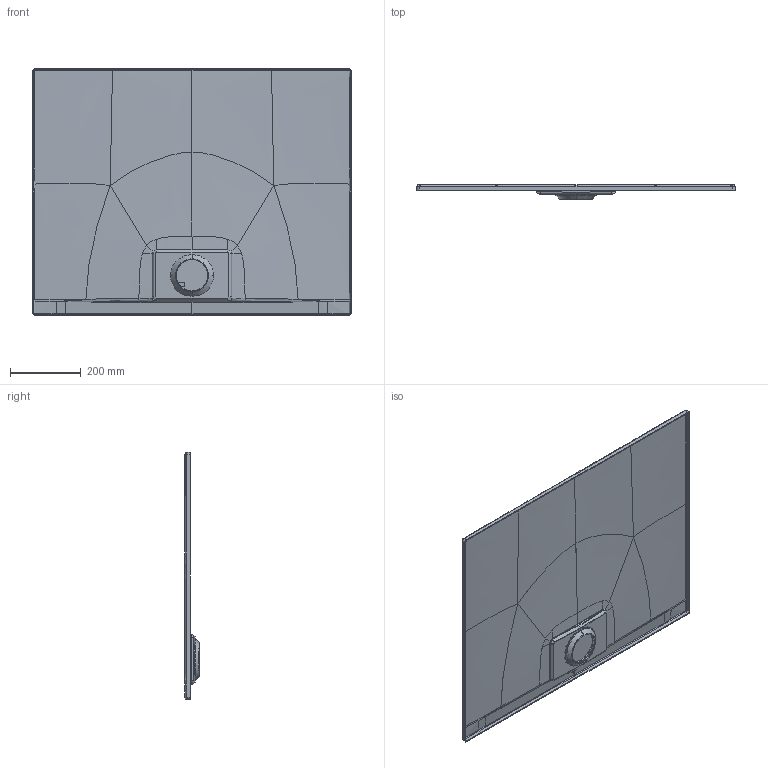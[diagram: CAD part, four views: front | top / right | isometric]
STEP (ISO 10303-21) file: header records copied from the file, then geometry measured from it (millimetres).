
FILE_DESCRIPTION((''),'2;1');
FILE_NAME('UDA9070ARA215_ARCHITECTURA_META_ASM','2022-07-12T15:51:07',('GrootJ'),('Villeroy & Boch Wellness bv'),'CREO PARAMETRIC BY PTC INC, 2020454','CREO PARAMETRIC BY PTC INC, 2020454','');
FILE_SCHEMA(('CONFIG_CONTROL_DESIGN'));
Products named in the file (6): G0500027_22; G0500024_69; G0500026_ASM_11_ASM; METALRIM_COVER_GEPLAATST120722_ASM; METALRIM-LOGO_12072022; UDA9070ARA215_ARCHITECTURA_META_ASM
Assembly tree (5 placements, depth 4):
  UDA9070ARA215_ARCHITECTURA_META_ASM
    METALRIM_COVER_GEPLAATST120722_ASM
      G0500026_ASM_11_ASM
        G0500027_22
        G0500024_69
    METALRIM-LOGO_12072022
Bounding box: 900 x 40 x 700 mm (x, y, z)
Volume: 119920.3 mm3; surface area: 1442062 mm2
Topology: 30 solids, 33 shells, 1183 faces, 3085 edges, 1924 vertices
Faces by surface type: plane 422, extrusion 239, bspline 173, cylinder 173, cone 114, sphere 36, torus 26
Entity records: 50251 total; most frequent: CARTESIAN_POINT 24109, ORIENTED_EDGE 6108, DIRECTION 4067, EDGE_CURVE 3059, VERTEX_POINT 1926, VECTOR 1551, B_SPLINE_CURVE_WITH_KNOTS 1513, LINE 1312
